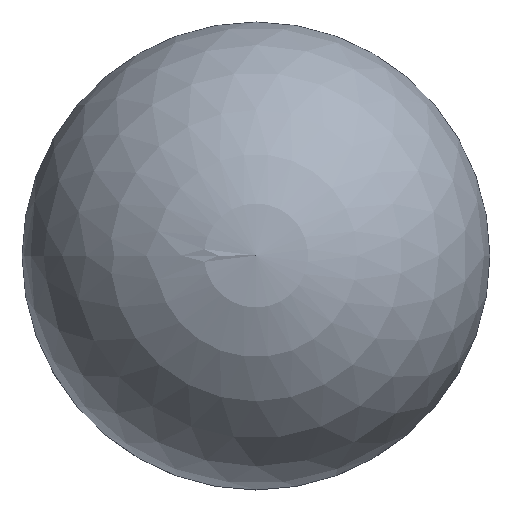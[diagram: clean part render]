
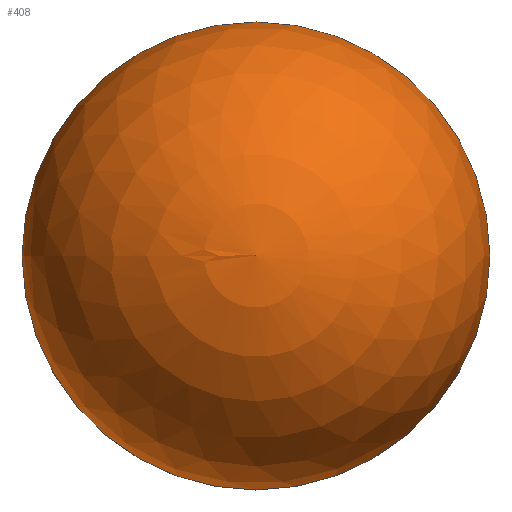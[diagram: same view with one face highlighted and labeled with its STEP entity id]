
A CAD part, top view. The second image highlights one B-rep face of the part: STEP entity #408.
In plain terms, the highlighted spherical face has radius 25 mm.
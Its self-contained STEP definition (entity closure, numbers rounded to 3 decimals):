
#408=ADVANCED_FACE('',(#4850),#4852,.T.);
#4850=FACE_OUTER_BOUND('',#4851,.T.);
#4851=EDGE_LOOP('',(#9459));
#4852=SPHERICAL_SURFACE('',#4853,25.);
#4853=AXIS2_PLACEMENT_3D('',#4854,#4855,#4856);
#4854=CARTESIAN_POINT('',(0.,0.,0.));
#4855=DIRECTION('',(0.,0.,-1.));
#4856=DIRECTION('',(-1.,0.,0.));
#9459=ORIENTED_EDGE('',*,*,#11858,.F.);
#11858=EDGE_CURVE('',#13093,#13093,#13094,.T.);
#13093=VERTEX_POINT('',#15016);
#13094=CIRCLE('',#15017,25.);
#15016=CARTESIAN_POINT('',(-25.,0.,0.));
#15017=AXIS2_PLACEMENT_3D('',#15018,#15019,#15020);
#15018=CARTESIAN_POINT('',(0.,0.,0.));
#15019=DIRECTION('',(0.,0.,-1.));
#15020=DIRECTION('',(-1.,0.,0.));
